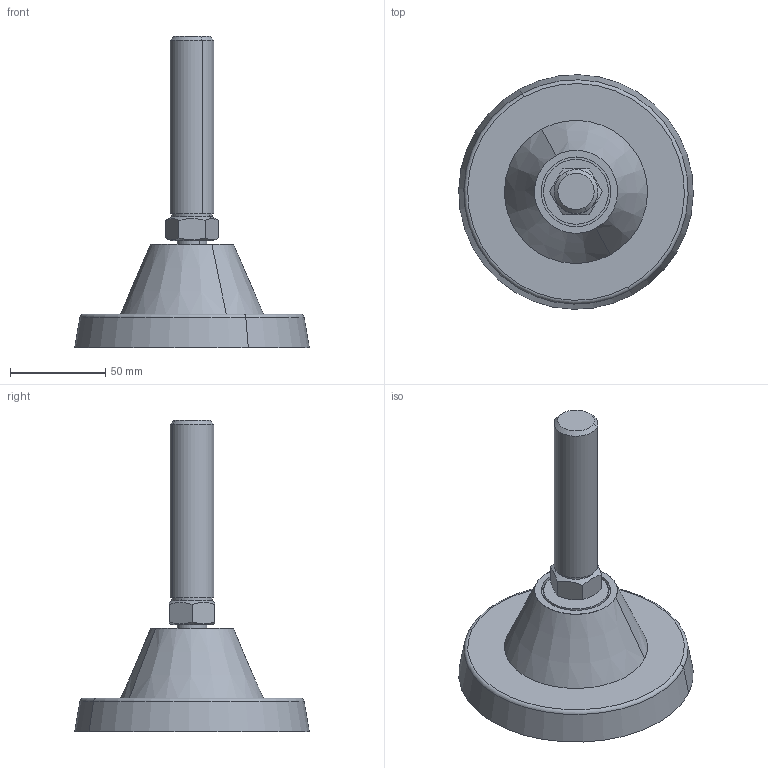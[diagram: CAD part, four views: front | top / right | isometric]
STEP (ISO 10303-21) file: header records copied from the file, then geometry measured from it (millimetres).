
FILE_DESCRIPTION(('CATIA V5 STEP Exchange'),'2;1');
FILE_NAME('C:\Users\ALI OZGUN\Desktop\alhan\ARTICULATED_FEET-PABUCLAR\502122415.stp','2017-09-08T06:28:39+00:00',('none'),('none'),'CATIA Version 5 Release 21 GA (IN-10)','CATIA V5 STEP AP203','none');
FILE_SCHEMA(('CONFIG_CONTROL_DESIGN'));
Length unit declared in the file: millimetre
Products named in the file (1): 502122415
Bounding box: 122.97 x 122.97 x 163 mm (x, y, z)
Volume: 208291.9 mm3; surface area: 71388.6 mm2
Topology: 3 solids, 3 shells, 129 faces, 334 edges, 218 vertices
Faces by surface type: plane 61, cylinder 34, cone 30, torus 2, sphere 2
Entity records: 3887 total; most frequent: CARTESIAN_POINT 1199, ORIENTED_EDGE 668, DIRECTION 336, EDGE_CURVE 334, VERTEX_POINT 218, AXIS2_PLACEMENT_3D 171, EDGE_LOOP 140, ADVANCED_FACE 129
